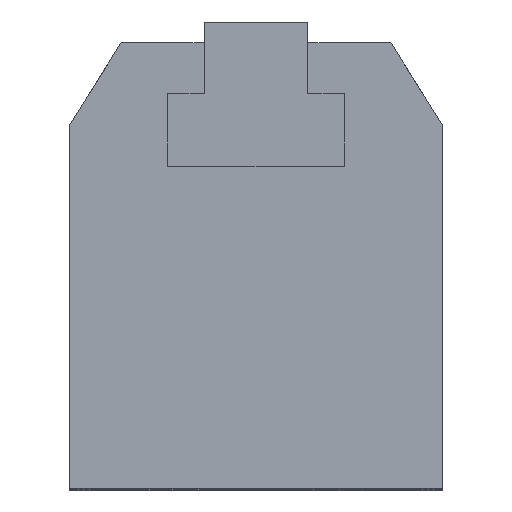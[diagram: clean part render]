
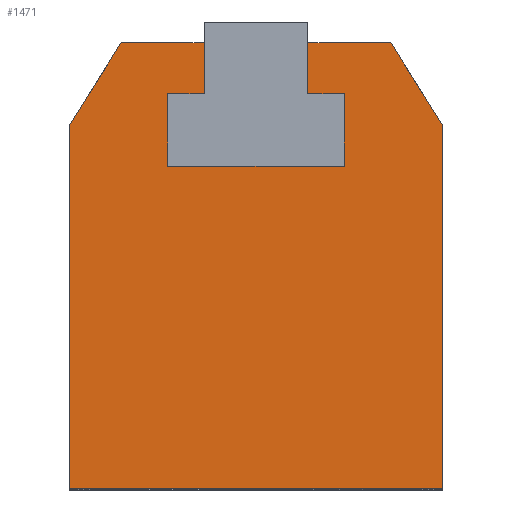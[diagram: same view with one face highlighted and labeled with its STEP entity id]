
A CAD part, top view. The second image highlights one B-rep face of the part: STEP entity #1471.
In plain terms, the highlighted planar face has unit normal (0, 0, 1).
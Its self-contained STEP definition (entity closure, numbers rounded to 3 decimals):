
#38 = CARTESIAN_POINT ( 'NONE',  ( 13., 43., 32. ) ) ;
#99 = DIRECTION ( 'NONE',  ( -1., 0., 0. ) ) ;
#150 = VECTOR ( 'NONE', #627, 1000. ) ;
#160 = VECTOR ( 'NONE', #7405, 1000. ) ;
#453 = ORIENTED_EDGE ( 'NONE', *, *, #2762, .T. ) ;
#476 = CARTESIAN_POINT ( 'NONE',  ( 13., 43., 32. ) ) ;
#627 = DIRECTION ( 'NONE',  ( -1., 0., 0. ) ) ;
#661 = LINE ( 'NONE', #6630, #4554 ) ;
#711 = EDGE_CURVE ( 'NONE', #4902, #3550, #6068, .T. ) ;
#799 = ORIENTED_EDGE ( 'NONE', *, *, #5491, .T. ) ;
#846 = VECTOR ( 'NONE', #4351, 1000. ) ;
#894 = EDGE_CURVE ( 'NONE', #6255, #4511, #4882, .T. ) ;
#1070 = VERTEX_POINT ( 'NONE', #5542 ) ;
#1104 = ORIENTED_EDGE ( 'NONE', *, *, #7636, .F. ) ;
#1193 = CARTESIAN_POINT ( 'NONE',  ( -8.5, 31.1, 32. ) ) ;
#1209 = CARTESIAN_POINT ( 'NONE',  ( -5., 0., 32. ) ) ;
#1379 = CARTESIAN_POINT ( 'NONE',  ( 5., 38.1, 32. ) ) ;
#1397 = DIRECTION ( 'NONE',  ( 0., 1., 0. ) ) ;
#1438 = CARTESIAN_POINT ( 'NONE',  ( 18., 35., 32. ) ) ;
#1471 = ADVANCED_FACE ( 'NONE', ( #3173 ), #1850, .F. ) ;
#1475 = DIRECTION ( 'NONE',  ( 0., 1., 0. ) ) ;
#1503 = ORIENTED_EDGE ( 'NONE', *, *, #5087, .F. ) ;
#1586 = EDGE_CURVE ( 'NONE', #6999, #2747, #2633, .T. ) ;
#1596 = DIRECTION ( 'NONE',  ( 0., -1., 0. ) ) ;
#1703 = CARTESIAN_POINT ( 'NONE',  ( 8.5, 38.1, 32. ) ) ;
#1756 = CARTESIAN_POINT ( 'NONE',  ( 8.5, 38.1, 32. ) ) ;
#1760 = CARTESIAN_POINT ( 'NONE',  ( 18., 0., 32. ) ) ;
#1800 = LINE ( 'NONE', #476, #4310 ) ;
#1850 = PLANE ( 'NONE',  #7111 ) ;
#1872 = ORIENTED_EDGE ( 'NONE', *, *, #7461, .F. ) ;
#1894 = ORIENTED_EDGE ( 'NONE', *, *, #1586, .T. ) ;
#1902 = DIRECTION ( 'NONE',  ( -1., 0., 0. ) ) ;
#2470 = EDGE_CURVE ( 'NONE', #4982, #5697, #5222, .T. ) ;
#2534 = VERTEX_POINT ( 'NONE', #3219 ) ;
#2553 = VERTEX_POINT ( 'NONE', #7343 ) ;
#2565 = VECTOR ( 'NONE', #3878, 1000. ) ;
#2600 = LINE ( 'NONE', #1756, #7260 ) ;
#2633 = LINE ( 'NONE', #38, #150 ) ;
#2707 = CARTESIAN_POINT ( 'NONE',  ( 8.5, 31.1, 32. ) ) ;
#2719 = VECTOR ( 'NONE', #5070, 1000. ) ;
#2747 = VERTEX_POINT ( 'NONE', #6372 ) ;
#2762 = EDGE_CURVE ( 'NONE', #2553, #6151, #1800, .T. ) ;
#2785 = DIRECTION ( 'NONE',  ( -1., 0., 0. ) ) ;
#3024 = DIRECTION ( 'NONE',  ( 1., 0., 0. ) ) ;
#3145 = CARTESIAN_POINT ( 'NONE',  ( -5., 38.1, 32. ) ) ;
#3173 = FACE_OUTER_BOUND ( 'NONE', #3677, .T. ) ;
#3219 = CARTESIAN_POINT ( 'NONE',  ( -18., 35., 32. ) ) ;
#3241 = LINE ( 'NONE', #3732, #846 ) ;
#3280 = VECTOR ( 'NONE', #7649, 1000. ) ;
#3357 = ORIENTED_EDGE ( 'NONE', *, *, #6982, .T. ) ;
#3380 = ORIENTED_EDGE ( 'NONE', *, *, #5262, .T. ) ;
#3550 = VERTEX_POINT ( 'NONE', #6670 ) ;
#3589 = CARTESIAN_POINT ( 'NONE',  ( -18., 0., 32. ) ) ;
#3614 = DIRECTION ( 'NONE',  ( 0., 0., -1. ) ) ;
#3644 = VECTOR ( 'NONE', #1902, 1000. ) ;
#3677 = EDGE_LOOP ( 'NONE', ( #1894, #1503, #1104, #6096, #5858, #1872, #5301, #799, #453, #4592, #3357, #6295, #7188, #3380 ) ) ;
#3730 = LINE ( 'NONE', #1209, #4675 ) ;
#3732 = CARTESIAN_POINT ( 'NONE',  ( -13., 43., 32. ) ) ;
#3875 = CARTESIAN_POINT ( 'NONE',  ( 18., 35., 32. ) ) ;
#3876 = CARTESIAN_POINT ( 'NONE',  ( -8.5, 38.1, 32. ) ) ;
#3878 = DIRECTION ( 'NONE',  ( 1., 0., 0. ) ) ;
#3974 = CARTESIAN_POINT ( 'NONE',  ( -8.5, 31.1, 32. ) ) ;
#4092 = VECTOR ( 'NONE', #1596, 1000. ) ;
#4241 = CARTESIAN_POINT ( 'NONE',  ( -5., 38.1, 32. ) ) ;
#4309 = LINE ( 'NONE', #3875, #2719 ) ;
#4310 = VECTOR ( 'NONE', #2785, 1000. ) ;
#4351 = DIRECTION ( 'NONE',  ( -0.53, -0.848, 0. ) ) ;
#4394 = CARTESIAN_POINT ( 'NONE',  ( -13., 43., 32. ) ) ;
#4470 = CARTESIAN_POINT ( 'NONE',  ( 18., 0., 32. ) ) ;
#4490 = CARTESIAN_POINT ( 'NONE',  ( -18., 35., 32. ) ) ;
#4511 = VERTEX_POINT ( 'NONE', #1438 ) ;
#4554 = VECTOR ( 'NONE', #7267, 1000. ) ;
#4592 = ORIENTED_EDGE ( 'NONE', *, *, #6072, .T. ) ;
#4675 = VECTOR ( 'NONE', #1397, 1000. ) ;
#4741 = CARTESIAN_POINT ( 'NONE',  ( 0., 0., 32. ) ) ;
#4882 = LINE ( 'NONE', #1760, #3280 ) ;
#4902 = VERTEX_POINT ( 'NONE', #1193 ) ;
#4982 = VERTEX_POINT ( 'NONE', #4241 ) ;
#5070 = DIRECTION ( 'NONE',  ( -0.53, 0.848, 0. ) ) ;
#5087 = EDGE_CURVE ( 'NONE', #1070, #2747, #5773, .T. ) ;
#5222 = LINE ( 'NONE', #3145, #3644 ) ;
#5262 = EDGE_CURVE ( 'NONE', #4511, #6999, #4309, .T. ) ;
#5301 = ORIENTED_EDGE ( 'NONE', *, *, #2470, .F. ) ;
#5339 = EDGE_CURVE ( 'NONE', #3550, #7668, #6707, .T. ) ;
#5491 = EDGE_CURVE ( 'NONE', #4982, #2553, #3730, .T. ) ;
#5542 = CARTESIAN_POINT ( 'NONE',  ( 5., 38.1, 32. ) ) ;
#5662 = LINE ( 'NONE', #4490, #4092 ) ;
#5697 = VERTEX_POINT ( 'NONE', #3876 ) ;
#5773 = LINE ( 'NONE', #1379, #160 ) ;
#5858 = ORIENTED_EDGE ( 'NONE', *, *, #711, .F. ) ;
#5859 = DIRECTION ( 'NONE',  ( -1., 0., 0. ) ) ;
#6002 = CARTESIAN_POINT ( 'NONE',  ( -18., 0., 32. ) ) ;
#6068 = LINE ( 'NONE', #3974, #2565 ) ;
#6072 = EDGE_CURVE ( 'NONE', #6151, #2534, #3241, .T. ) ;
#6096 = ORIENTED_EDGE ( 'NONE', *, *, #5339, .F. ) ;
#6151 = VERTEX_POINT ( 'NONE', #4394 ) ;
#6255 = VERTEX_POINT ( 'NONE', #4470 ) ;
#6295 = ORIENTED_EDGE ( 'NONE', *, *, #7234, .T. ) ;
#6372 = CARTESIAN_POINT ( 'NONE',  ( 5., 43., 32. ) ) ;
#6583 = LINE ( 'NONE', #3589, #6962 ) ;
#6630 = CARTESIAN_POINT ( 'NONE',  ( -8.5, 38.1, 32. ) ) ;
#6670 = CARTESIAN_POINT ( 'NONE',  ( 8.5, 31.1, 32. ) ) ;
#6676 = VERTEX_POINT ( 'NONE', #6002 ) ;
#6707 = LINE ( 'NONE', #2707, #7462 ) ;
#6940 = CARTESIAN_POINT ( 'NONE',  ( 13., 43., 32. ) ) ;
#6962 = VECTOR ( 'NONE', #3024, 1000. ) ;
#6982 = EDGE_CURVE ( 'NONE', #2534, #6676, #5662, .T. ) ;
#6999 = VERTEX_POINT ( 'NONE', #6940 ) ;
#7111 = AXIS2_PLACEMENT_3D ( 'NONE', #4741, #3614, #99 ) ;
#7188 = ORIENTED_EDGE ( 'NONE', *, *, #894, .T. ) ;
#7234 = EDGE_CURVE ( 'NONE', #6676, #6255, #6583, .T. ) ;
#7260 = VECTOR ( 'NONE', #5859, 1000. ) ;
#7267 = DIRECTION ( 'NONE',  ( 0., -1., 0. ) ) ;
#7343 = CARTESIAN_POINT ( 'NONE',  ( -5., 43., 32. ) ) ;
#7405 = DIRECTION ( 'NONE',  ( 0., 1., 0. ) ) ;
#7461 = EDGE_CURVE ( 'NONE', #5697, #4902, #661, .T. ) ;
#7462 = VECTOR ( 'NONE', #1475, 1000. ) ;
#7636 = EDGE_CURVE ( 'NONE', #7668, #1070, #2600, .T. ) ;
#7649 = DIRECTION ( 'NONE',  ( 0., 1., 0. ) ) ;
#7668 = VERTEX_POINT ( 'NONE', #1703 ) ;
